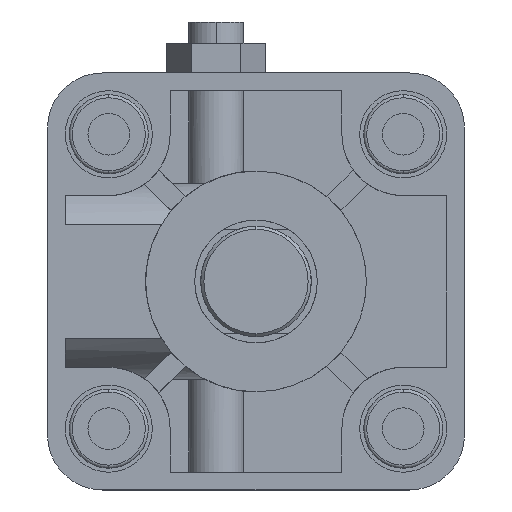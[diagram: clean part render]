
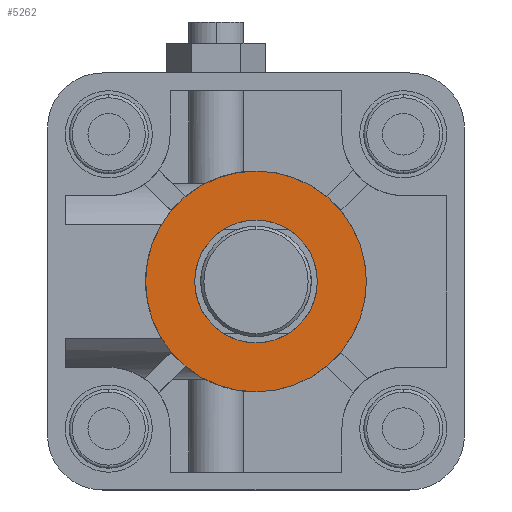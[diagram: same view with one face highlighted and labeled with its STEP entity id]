
A CAD part, left-side view. The second image highlights one B-rep face of the part: STEP entity #5262.
In plain terms, the highlighted planar face has unit normal (-1, 0, 0) as drawn and (1, 0, 0) by its records, which use the part's own axes.
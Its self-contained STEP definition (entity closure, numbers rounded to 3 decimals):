
#69 = ORIENTED_EDGE ( 'NONE', *, *, #2781, .F. ) ;
#271 = DIRECTION ( 'NONE',  ( -1., 0., 0. ) ) ;
#369 = CARTESIAN_POINT ( 'NONE',  ( 26., 10., 0. ) ) ;
#487 = CARTESIAN_POINT ( 'NONE',  ( 26., 0., 0. ) ) ;
#819 = FACE_OUTER_BOUND ( 'NONE', #7393, .T. ) ;
#1065 = CARTESIAN_POINT ( 'NONE',  ( 26., 0., 0. ) ) ;
#1570 = AXIS2_PLACEMENT_3D ( 'NONE', #7749, #4896, #2594 ) ;
#1635 = AXIS2_PLACEMENT_3D ( 'NONE', #1065, #5780, #4121 ) ;
#1695 = VERTEX_POINT ( 'NONE', #7469 ) ;
#1807 = DIRECTION ( 'NONE',  ( 0., 0., 1. ) ) ;
#2521 = VERTEX_POINT ( 'NONE', #3816 ) ;
#2594 = DIRECTION ( 'NONE',  ( 0., 0., 1. ) ) ;
#2640 = DIRECTION ( 'NONE',  ( 0., 0., 1. ) ) ;
#2781 = EDGE_CURVE ( 'NONE', #2521, #6498, #5032, .T. ) ;
#2817 = EDGE_CURVE ( 'NONE', #6498, #2521, #2958, .T. ) ;
#2912 = EDGE_LOOP ( 'NONE', ( #4839, #7388 ) ) ;
#2958 = CIRCLE ( 'NONE', #1570, 18. ) ;
#3000 = AXIS2_PLACEMENT_3D ( 'NONE', #5909, #271, #1807 ) ;
#3058 = CARTESIAN_POINT ( 'NONE',  ( 26., 0., -18. ) ) ;
#3089 = DIRECTION ( 'NONE',  ( -1., 0., 0. ) ) ;
#3354 = VERTEX_POINT ( 'NONE', #7353 ) ;
#3816 = CARTESIAN_POINT ( 'NONE',  ( 26., 0., 18. ) ) ;
#4121 = DIRECTION ( 'NONE',  ( 0., 0., 1. ) ) ;
#4839 = ORIENTED_EDGE ( 'NONE', *, *, #8993, .T. ) ;
#4896 = DIRECTION ( 'NONE',  ( -1., 0., 0. ) ) ;
#5032 = CIRCLE ( 'NONE', #1635, 18. ) ;
#5262 = ADVANCED_FACE ( 'NONE', ( #819, #9172 ), #7203, .F. ) ;
#5780 = DIRECTION ( 'NONE',  ( -1., 0., 0. ) ) ;
#5909 = CARTESIAN_POINT ( 'NONE',  ( 26., 0., 0. ) ) ;
#5973 = DIRECTION ( 'NONE',  ( -1., 0., 0. ) ) ;
#6498 = VERTEX_POINT ( 'NONE', #3058 ) ;
#7203 = PLANE ( 'NONE',  #7887 ) ;
#7353 = CARTESIAN_POINT ( 'NONE',  ( 26., 0., 10. ) ) ;
#7356 = AXIS2_PLACEMENT_3D ( 'NONE', #487, #5973, #2640 ) ;
#7388 = ORIENTED_EDGE ( 'NONE', *, *, #8657, .T. ) ;
#7393 = EDGE_LOOP ( 'NONE', ( #69, #8165 ) ) ;
#7469 = CARTESIAN_POINT ( 'NONE',  ( 26., 0., -10. ) ) ;
#7653 = DIRECTION ( 'NONE',  ( 0., 0., 1. ) ) ;
#7749 = CARTESIAN_POINT ( 'NONE',  ( 26., 0., 0. ) ) ;
#7887 = AXIS2_PLACEMENT_3D ( 'NONE', #369, #3089, #7653 ) ;
#8165 = ORIENTED_EDGE ( 'NONE', *, *, #2817, .F. ) ;
#8343 = CIRCLE ( 'NONE', #3000, 10. ) ;
#8657 = EDGE_CURVE ( 'NONE', #1695, #3354, #9042, .T. ) ;
#8993 = EDGE_CURVE ( 'NONE', #3354, #1695, #8343, .T. ) ;
#9042 = CIRCLE ( 'NONE', #7356, 10. ) ;
#9172 = FACE_BOUND ( 'NONE', #2912, .T. ) ;
